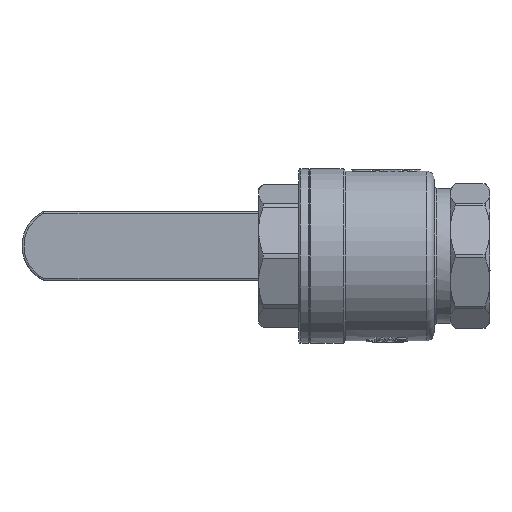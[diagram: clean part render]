
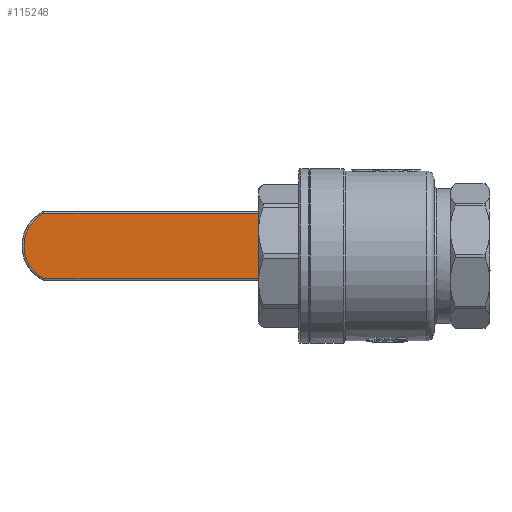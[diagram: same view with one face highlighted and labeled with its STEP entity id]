
A CAD part, front view. The second image highlights one B-rep face of the part: STEP entity #115248.
In plain terms, the highlighted planar face has unit normal (0, -1, 0).
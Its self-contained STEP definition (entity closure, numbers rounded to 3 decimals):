
#5643 = CIRCLE ( 'NONE', #69456, 18.5 ) ;
#6755 = LINE ( 'NONE', #70666, #62319 ) ;
#7615 = ORIENTED_EDGE ( 'NONE', *, *, #86639, .T. ) ;
#13771 = EDGE_CURVE ( 'NONE', #75612, #79146, #5643, .T. ) ;
#16021 = EDGE_CURVE ( 'NONE', #106361, #41232, #6755, .T. ) ;
#23359 = EDGE_CURVE ( 'NONE', #79146, #106361, #78764, .T. ) ;
#23569 = DIRECTION ( 'NONE',  ( -1., 0., 0. ) ) ;
#26059 = LINE ( 'NONE', #62190, #107830 ) ;
#32859 = DIRECTION ( 'NONE',  ( 1., 0., 0. ) ) ;
#40470 = DIRECTION ( 'NONE',  ( 0., 0., -1. ) ) ;
#41232 = VERTEX_POINT ( 'NONE', #54866 ) ;
#42154 = ORIENTED_EDGE ( 'NONE', *, *, #23359, .T. ) ;
#47540 = CARTESIAN_POINT ( 'NONE',  ( -18.5, -5., 0. ) ) ;
#49372 = EDGE_LOOP ( 'NONE', ( #124015, #7615, #64318, #42154 ) ) ;
#54866 = CARTESIAN_POINT ( 'NONE',  ( -123.134, -5., -16.45 ) ) ;
#59836 = CARTESIAN_POINT ( 'NONE',  ( -10.036, -5., -16.45 ) ) ;
#62190 = CARTESIAN_POINT ( 'NONE',  ( -124., -5., -16.45 ) ) ;
#62319 = VECTOR ( 'NONE', #40470, 1000. ) ;
#64318 = ORIENTED_EDGE ( 'NONE', *, *, #13771, .T. ) ;
#69456 = AXIS2_PLACEMENT_3D ( 'NONE', #47540, #87610, #106572 ) ;
#70666 = CARTESIAN_POINT ( 'NONE',  ( -123.134, -5., -17.45 ) ) ;
#71086 = DIRECTION ( 'NONE',  ( 0., 0., 1. ) ) ;
#75612 = VERTEX_POINT ( 'NONE', #59836 ) ;
#77598 = AXIS2_PLACEMENT_3D ( 'NONE', #100377, #121572, #71086 ) ;
#78764 = LINE ( 'NONE', #110673, #103365 ) ;
#79146 = VERTEX_POINT ( 'NONE', #116642 ) ;
#86639 = EDGE_CURVE ( 'NONE', #41232, #75612, #26059, .T. ) ;
#87228 = CARTESIAN_POINT ( 'NONE',  ( -123.134, -5., 16.45 ) ) ;
#87610 = DIRECTION ( 'NONE',  ( 0., -1., 0. ) ) ;
#99789 = FACE_OUTER_BOUND ( 'NONE', #49372, .T. ) ;
#100377 = CARTESIAN_POINT ( 'NONE',  ( -124., -5., 16.45 ) ) ;
#103365 = VECTOR ( 'NONE', #23569, 1000. ) ;
#106361 = VERTEX_POINT ( 'NONE', #87228 ) ;
#106572 = DIRECTION ( 'NONE',  ( 0., 0., 1. ) ) ;
#107830 = VECTOR ( 'NONE', #32859, 1000. ) ;
#110673 = CARTESIAN_POINT ( 'NONE',  ( -123.567, -5., 16.45 ) ) ;
#111577 = PLANE ( 'NONE',  #77598 ) ;
#115248 = ADVANCED_FACE ( 'NONE', ( #99789 ), #111577, .F. ) ;
#116642 = CARTESIAN_POINT ( 'NONE',  ( -10.036, -5., 16.45 ) ) ;
#121572 = DIRECTION ( 'NONE',  ( 0., 1., 0. ) ) ;
#124015 = ORIENTED_EDGE ( 'NONE', *, *, #16021, .T. ) ;
